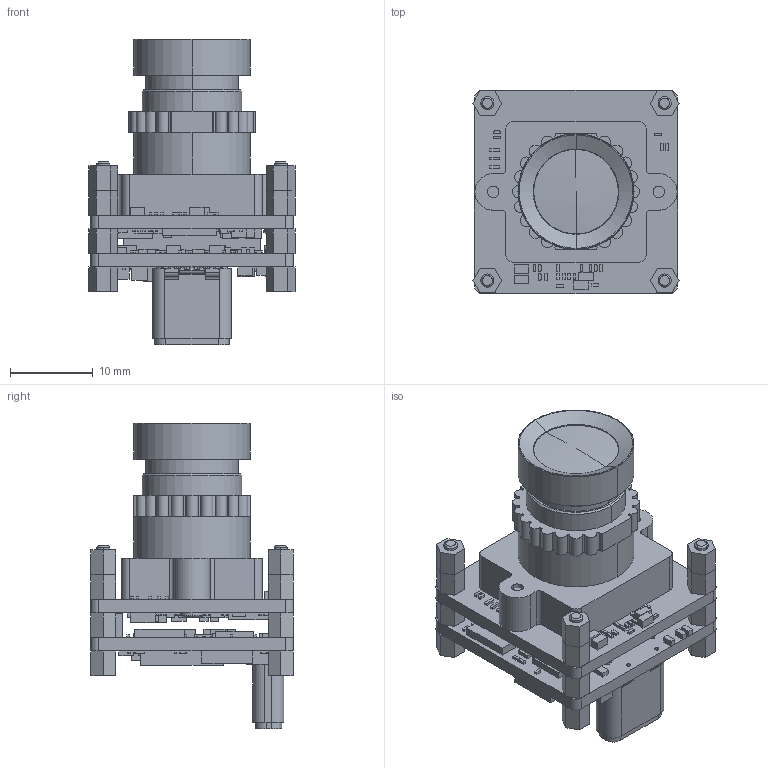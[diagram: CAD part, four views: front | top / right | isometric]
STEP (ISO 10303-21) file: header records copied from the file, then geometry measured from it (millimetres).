
FILE_DESCRIPTION((''),'2;1');
FILE_NAME('UVCI-AR0144-TYPEC-3D-B1_230531_ASM','2023-06-01T17:21:58',('eric.wang'),(''),'CREO PARAMETRIC BY PTC INC, 2022124','CREO PARAMETRIC BY PTC INC, 2022124','');
FILE_SCHEMA(('AUTOMOTIVE_DESIGN { 1 0 10303 214 1 1 1 1 }'));
Products named in the file (55): M1_6X3_NUT_SCREW_6_1_1; TN255-PCB_6_1_1; CONN_DF40C-60DP-04V_4_1_1; CONN_DF40HC-70DS-04V_5_1_1; MSBR-4_4_1_1; MSBR-3_4_1_1; MSBR-2_4_1_1; MSBR-1_4_1_1; UT1411C-1940F-7H_ASM_5_ASM_1_AS_ASM; L_HMLQ25201B_255_1_1_1; SOT563_6_255_1_1_1; SSW_RENE_JM2002-02FQR_D7_255_1_; DQA_R-PUSON-N10_255_1_1_1; STP24X50_255_1_1_1; QFN30_D4_2D5X4D5XD8_255_1_1_1; DFN6_D4X1D4X1D35XD5_1_255_1_1_1; SOSC4_CX2016DB_255_1_1_1; SM1206C_255_1_1_1; SM0402C_255_1_1_1; 0201_RR_012SM_255_1_1_1; SM0402L_255_1_1_1; 0201_CC_012SM_255_1_1_1; 0201_3P_255_1_1_1; DFN8_1D27_6X5X1_255_1_1_1; SON8_D65X3X3X1_255_1_1_1; BGA121_D8_10X10X1D7_255_1_1_1; VIZIONCAM-USB3C-UVC_REVA2_ASM_4_ASM; TN255-ASM_ASM_72_ASM_1_ASM_1_ASM; M1_6X3_NUT_2_1_1; ISP-PCBA-TYPEC-ASM_ASM_37_ASM_1_ASM; TN271_4_1_1; CONN_DF40C-70DP-04V_4_1_1; AR0144-D_3_1_1; L_HMLQ25201B_271_1_1_1; SC70_6_271_1_1_1; SOT563_6_271_1_1_1; SOP8_D65X6D4X1D2_271_1_1_1; BGA120_AP1302_271_1_1_1; BGA69_AR0144CS_271_1_1_1; SM0402L_0271_1_1_1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
Assembly tree (303 placements, depth 6):
  UVCI-AR0144-TYPEC-3D-B1_230531_ASM
    ISP-PCBA-TYPEC-ASM_ASM_37_ASM_1_ASM
      M1_6X3_NUT_SCREW_6_1_1  x12
      TN255-ASM_ASM_72_ASM_1_ASM_1_ASM
        TN255-PCB_6_1_1
        CONN_DF40C-60DP-04V_4_1_1
        CONN_DF40HC-70DS-04V_5_1_1
        UT1411C-1940F-7H_ASM_5_ASM_1_AS_ASM
          MSBR-4_4_1_1
          MSBR-3_4_1_1
          MSBR-2_4_1_1
          MSBR-1_4_1_1
        VIZIONCAM-USB3C-UVC_REVA2_ASM_4_ASM
          L_HMLQ25201B_255_1_1_1  x2
          SOT563_6_255_1_1_1  x2
          SSW_RENE_JM2002-02FQR_D7_255_1_
          DQA_R-PUSON-N10_255_1_1_1  x2
          STP24X50_255_1_1_1  x3
          QFN30_D4_2D5X4D5XD8_255_1_1_1
          DFN6_D4X1D4X1D35XD5_1_255_1_1_1
          SOSC4_CX2016DB_255_1_1_1  x3
          SM1206C_255_1_1_1
          SM0402C_255_1_1_1  x13
          0201_RR_012SM_255_1_1_1  x39
          SM0402L_255_1_1_1  x6
          0201_CC_012SM_255_1_1_1  x50
          0201_3P_255_1_1_1  x3
          DFN8_1D27_6X5X1_255_1_1_1
          SON8_D65X3X3X1_255_1_1_1  x2
          BGA121_D8_10X10X1D7_255_1_1_1
      M1_6X3_NUT_2_1_1  x4
    TEVI-AR0144-HOLDER-3D-B1_230426_ASM
      TEVI-ASM_ASM_59_ASM_1_ASM_1_ASM
        TN271-ASM_ASM_29_ASM_1_ASM_1_ASM
          TN271_4_1_1
          CONN_DF40C-70DP-04V_4_1_1
          AR0144-D_3_1_1
          TEVI-AR0144_REVB1_0321_ASM_1_AS_ASM
            L_HMLQ25201B_271_1_1_1
            SC70_6_271_1_1_1
            SOT563_6_271_1_1_1
            SOP8_D65X6D4X1D2_271_1_1_1
            BGA120_AP1302_271_1_1_1
            BGA69_AR0144CS_271_1_1_1
            SM0402L_0271_1_1_1  x9
            0201_RR_012SM_271_1_1_1  x29
            0201_CC_012SM_271_1_1_1  x73
            SM0402C_0271_1_1_1  x11
            0201_3P_0271_1_1_1  x3
            OSC4P_CX2520SB_0271_1_1_1
            SOSC4_CX2016DB_271_1_1_1
          MTV-0285BF14_5MP__5_1_1
        SCREW_M17X6_2_1_1_1  x2
        LP-M12H2010P_1_1_1_1
        LENS-LOCK-RING_3_1_1_1
Bounding box: 24.86 x 24.5 x 36.9 mm (x, y, z)
Volume: 6332.5 mm3; surface area: 9787.9 mm2
Topology: 295 solids, 295 shells, 4200 faces, 11896 edges, 8420 vertices
Faces by surface type: plane 3726, cylinder 390, cone 62, torus 12, sphere 10
Entity records: 74888 total; most frequent: DIRECTION 9917, CARTESIAN_POINT 9083, ORIENTED_EDGE 5474, PRESENTATION_STYLE_ASSIGNMENT 3856, STYLED_ITEM 3856, CURVE_STYLE 3740, AXIS2_PLACEMENT_3D 3272, VECTOR 3216
